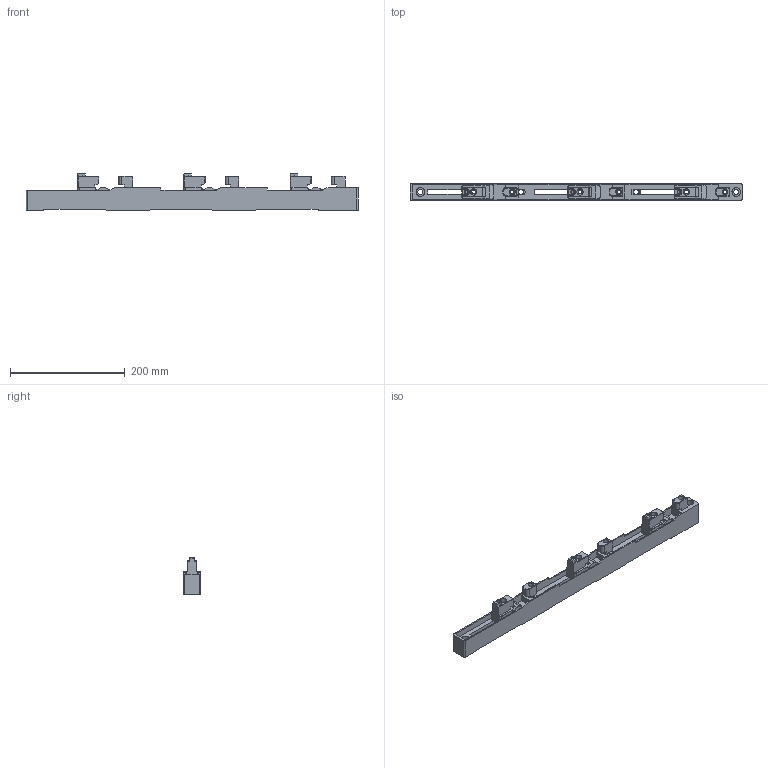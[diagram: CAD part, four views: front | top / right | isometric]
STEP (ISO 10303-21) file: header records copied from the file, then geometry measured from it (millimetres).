
FILE_DESCRIPTION (( 'STEP AP214' ), '1' );
FILE_NAME ('52001.STEP', '2021-08-09T06:15:13', ( '' ), ( '' ), 'SwSTEP 2.0', 'SolidWorks 2017', '' );
FILE_SCHEMA (( 'AUTOMOTIVE_DESIGN' ));
Length unit declared in the file: millimetre
Products named in the file (2): 52001
Bounding box: 578 x 29 x 63.9 mm (x, y, z)
Volume: 385981 mm3; surface area: 153560.7 mm2
Topology: 7 solids, 7 shells, 604 faces, 1545 edges, 967 vertices
Faces by surface type: plane 362, cylinder 173, bspline 60, cone 6, torus 3
Full cylindrical faces by diameter (mm): 5.2 x3, 6 x3, 6.5 x3, 7 x3, 9 x4, 10 x3, 10.6 x3, 10.8 x3, 11 x3, 15 x2
Entity records: 24274 total; most frequent: CARTESIAN_POINT 6521, ORIENTED_EDGE 2996, DIRECTION 2767, EDGE_CURVE 1498, VECTOR 1055, LINE 1055, VERTEX_POINT 956, AXIS2_PLACEMENT_3D 856
